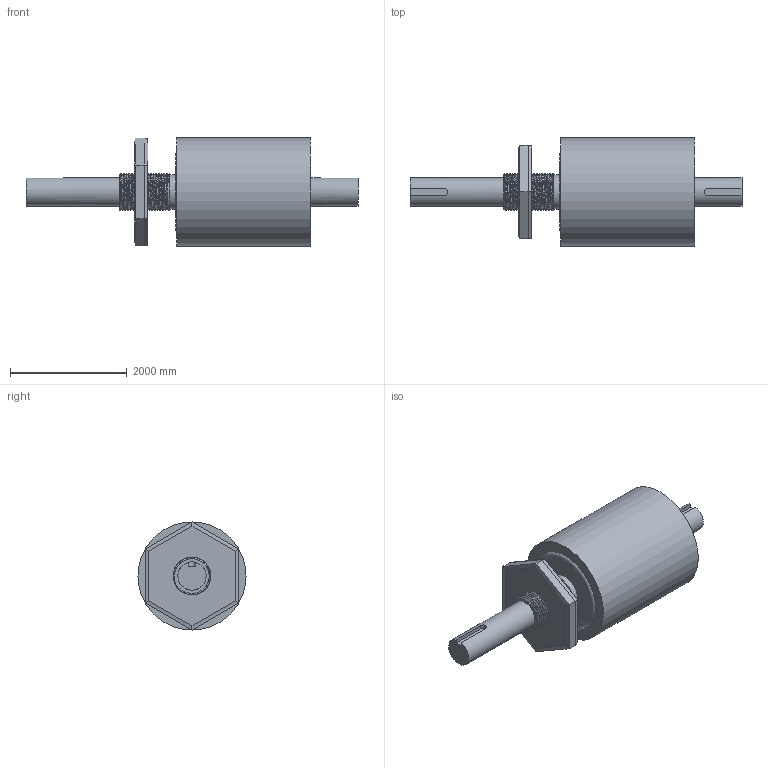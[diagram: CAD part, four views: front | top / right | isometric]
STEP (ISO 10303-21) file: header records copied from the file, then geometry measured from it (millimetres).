
FILE_DESCRIPTION(/* description */ (''),/* implementation_level */ '2;1');
FILE_NAME(/* name */ '61040.stp',/* time_stamp */ '2017-11-12T13:11:12+08:00',/* author */ (''),/* organization */ (''),/* preprocessor_version */ 'ST-DEVELOPER v16',/* originating_system */ 'SIEMENS PLM Software NX 10.0',/* authorisation */ '');
FILE_SCHEMA (('AP203_CONFIGURATION_CONTROLLED_3D_DESIGN_OF_MECHANICAL_PARTS_AND_ASSEMBLIES_MIM_LF { 1 0 10303 403 2 1 2}'));
Length unit declared in the file: inch
Products named in the file (1): Admi1F98F020a2y8
Bounding box: 5685.28 x 1851.66 x 1851.66 mm (x, y, z)
Volume: 7326301025.5 mm3; surface area: 33324873.1 mm2
Topology: 3 solids, 3 shells, 58 faces, 130 edges, 84 vertices
Faces by surface type: plane 36, cylinder 17, bspline 4, torus 1
Full cylindrical faces by diameter (mm): 483.87 x2, 589.28 x1, 645.16 x5, 1270 x1, 1473.2 x1, 1851.66 x1
Entity records: 12950 total; most frequent: CARTESIAN_POINT 11769, DIRECTION 209, ORIENTED_EDGE 208, EDGE_CURVE 104, AXIS2_PLACEMENT_3D 72, VERTEX_POINT 70, EDGE_LOOP 67, LINE 65
